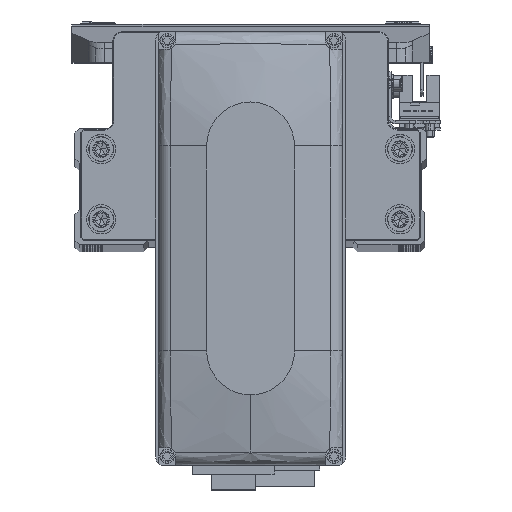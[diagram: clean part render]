
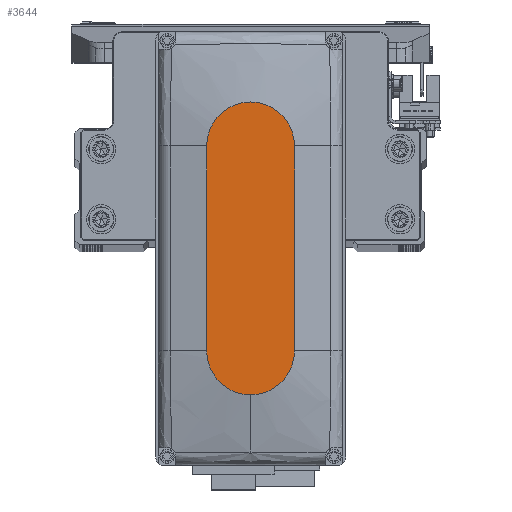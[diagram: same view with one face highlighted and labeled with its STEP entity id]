
A CAD part, top view. The second image highlights one B-rep face of the part: STEP entity #3644.
In plain terms, the highlighted planar face has unit normal (0, 0, 1).
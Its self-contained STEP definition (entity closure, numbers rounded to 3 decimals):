
#122 = AXIS2_PLACEMENT_3D ( 'NONE', #48783, #13984, #29503 ) ;
#858 = VERTEX_POINT ( 'NONE', #43375 ) ;
#872 = DIRECTION ( 'NONE',  ( 1., 0., 0. ) ) ;
#973 = CARTESIAN_POINT ( 'NONE',  ( 50., 0., 35. ) ) ;
#3526 = CARTESIAN_POINT ( 'NONE',  ( -35., 15., 35. ) ) ;
#3644 = ADVANCED_FACE ( 'NONE', ( #17802 ), #33306, .T. ) ;
#8216 = CIRCLE ( 'NONE', #36616, 15. ) ;
#8344 = EDGE_CURVE ( 'NONE', #17825, #46616, #36544, .T. ) ;
#8908 = LINE ( 'NONE', #24414, #20483 ) ;
#9796 = EDGE_CURVE ( 'NONE', #46616, #858, #8908, .T. ) ;
#10250 = VERTEX_POINT ( 'NONE', #973 ) ;
#11548 = AXIS2_PLACEMENT_3D ( 'NONE', #17652, #33152, #48641 ) ;
#13984 = DIRECTION ( 'NONE',  ( 0., 0., 1. ) ) ;
#14171 = DIRECTION ( 'NONE',  ( 0., 0., 1. ) ) ;
#14638 = AXIS2_PLACEMENT_3D ( 'NONE', #48975, #14171, #29676 ) ;
#17652 = CARTESIAN_POINT ( 'NONE',  ( 35., 0., 35. ) ) ;
#17802 = FACE_OUTER_BOUND ( 'NONE', #21686, .T. ) ;
#17825 = VERTEX_POINT ( 'NONE', #23397 ) ;
#19045 = DIRECTION ( 'NONE',  ( -1., 0., 0. ) ) ;
#20197 = CARTESIAN_POINT ( 'NONE',  ( 35., 0., 35. ) ) ;
#20483 = VECTOR ( 'NONE', #39907, 1000. ) ;
#21686 = EDGE_LOOP ( 'NONE', ( #21754, #27370, #30681, #26065, #46874 ) ) ;
#21754 = ORIENTED_EDGE ( 'NONE', *, *, #45027, .T. ) ;
#23397 = CARTESIAN_POINT ( 'NONE',  ( -35., 15., 35. ) ) ;
#24414 = CARTESIAN_POINT ( 'NONE',  ( -35., -15., 35. ) ) ;
#26065 = ORIENTED_EDGE ( 'NONE', *, *, #33047, .T. ) ;
#27370 = ORIENTED_EDGE ( 'NONE', *, *, #8344, .T. ) ;
#28565 = VERTEX_POINT ( 'NONE', #39958 ) ;
#29503 = DIRECTION ( 'NONE',  ( 1., 0., 0. ) ) ;
#29676 = DIRECTION ( 'NONE',  ( 1., 0., 0. ) ) ;
#30681 = ORIENTED_EDGE ( 'NONE', *, *, #9796, .T. ) ;
#30926 = VECTOR ( 'NONE', #19045, 1000. ) ;
#33047 = EDGE_CURVE ( 'NONE', #858, #10250, #8216, .T. ) ;
#33152 = DIRECTION ( 'NONE',  ( 0., 0., 1. ) ) ;
#33306 = PLANE ( 'NONE',  #122 ) ;
#33479 = CIRCLE ( 'NONE', #11548, 15. ) ;
#34070 = EDGE_CURVE ( 'NONE', #10250, #28565, #33479, .T. ) ;
#35688 = DIRECTION ( 'NONE',  ( 0., 0., 1. ) ) ;
#36544 = CIRCLE ( 'NONE', #14638, 15. ) ;
#36616 = AXIS2_PLACEMENT_3D ( 'NONE', #20197, #35688, #872 ) ;
#38339 = LINE ( 'NONE', #3526, #30926 ) ;
#39907 = DIRECTION ( 'NONE',  ( 1., 0., 0. ) ) ;
#39958 = CARTESIAN_POINT ( 'NONE',  ( 35., 15., 35. ) ) ;
#43375 = CARTESIAN_POINT ( 'NONE',  ( 35., -15., 35. ) ) ;
#45027 = EDGE_CURVE ( 'NONE', #28565, #17825, #38339, .T. ) ;
#46616 = VERTEX_POINT ( 'NONE', #49187 ) ;
#46874 = ORIENTED_EDGE ( 'NONE', *, *, #34070, .T. ) ;
#48641 = DIRECTION ( 'NONE',  ( 1., 0., 0. ) ) ;
#48783 = CARTESIAN_POINT ( 'NONE',  ( 0., 0., 35. ) ) ;
#48975 = CARTESIAN_POINT ( 'NONE',  ( -35., 0., 35. ) ) ;
#49187 = CARTESIAN_POINT ( 'NONE',  ( -35., -15., 35. ) ) ;
